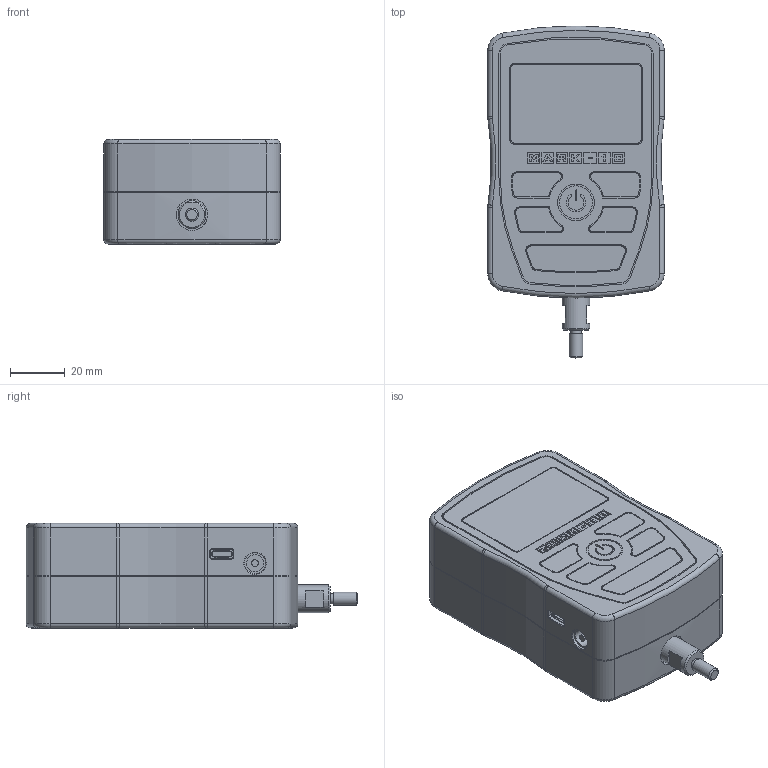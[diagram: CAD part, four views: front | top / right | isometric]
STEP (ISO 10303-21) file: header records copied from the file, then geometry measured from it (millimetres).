
FILE_DESCRIPTION(/* description */ (''),/* implementation_level */ '2;1');
FILE_NAME(/* name */ 'F:\MARKETING\SOLID MODELS\FORCE GAUGES\M3\M3.stp',/* time_stamp */ '2024-03-26T16:33:08-04:00',/* author */ ('ntakaki'),/* organization */ (''),/* preprocessor_version */ 'ST-DEVELOPER v18.1',/* originating_system */ 'AutoCAD Mechanical',/* authorisation */ '');
FILE_SCHEMA (('AUTOMOTIVE_DESIGN { 1 0 10303 214 3 1 1 }'));
Length unit declared in the file: inch
Products named in the file (1): Product
Bounding box: 64.27 x 120.9 x 38.3 mm (x, y, z)
Volume: 232504.8 mm3; surface area: 27021.6 mm2
Topology: 1 solids, 1 shells, 502 faces, 1257 edges, 823 vertices
Faces by surface type: plane 284, cylinder 175, torus 24, cone 17, bspline 2
Full cylindrical faces by diameter (mm): 2.5 x1, 3.505 x6, 3.81 x1, 4 x2, 4.775 x1, 4.826 x1, 5.486 x2, 6.299 x1, 6.35 x2, 7.62 x1, 10.16 x1, 11.43 x1, 11.938 x1, 12.065 x1, 12.7 x1, 13.335 x1
Entity records: 15137 total; most frequent: CARTESIAN_POINT 2704, DIRECTION 2672, ORIENTED_EDGE 2510, EDGE_CURVE 1255, AXIS2_PLACEMENT_3D 925, VERTEX_POINT 823, LINE 822, VECTOR 822
